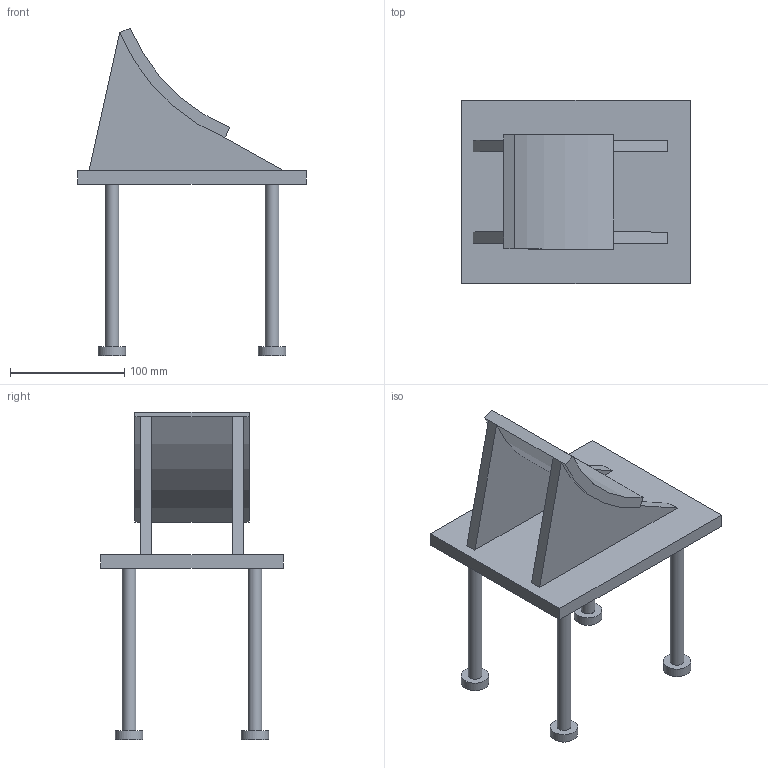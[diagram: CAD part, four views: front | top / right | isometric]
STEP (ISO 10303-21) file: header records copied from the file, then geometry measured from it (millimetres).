
FILE_DESCRIPTION(('Open CASCADE Model'),'2;1');
FILE_NAME('Open CASCADE Shape Model','2026-09-07T11:14:07',('Author'),( 'Open CASCADE'),'Open CASCADE STEP processor 7.9','Open CASCADE 7.9' ,'Unknown');
FILE_SCHEMA(('AUTOMOTIVE_DESIGN { 1 0 10303 214 1 1 1 1 }'));
Length unit declared in the file: millimetre
Products named in the file (1): Open CASCADE STEP translator 7.9 14
Bounding box: 200 x 160 x 286.58 mm (x, y, z)
Volume: 754485.8 mm3; surface area: 159696.7 mm2
Topology: 1 solids, 1 shells, 38 faces, 76 edges, 48 vertices
Faces by surface type: plane 26, cylinder 12
Full cylindrical faces by diameter (mm): 12 x4, 24 x4
Entity records: 2012 total; most frequent: CARTESIAN_POINT 375, DIRECTION 320, LINE 180, VECTOR 180, ORIENTED_EDGE 152, PCURVE 152, DEFINITIONAL_REPRESENTATION 152, EDGE_CURVE 76
